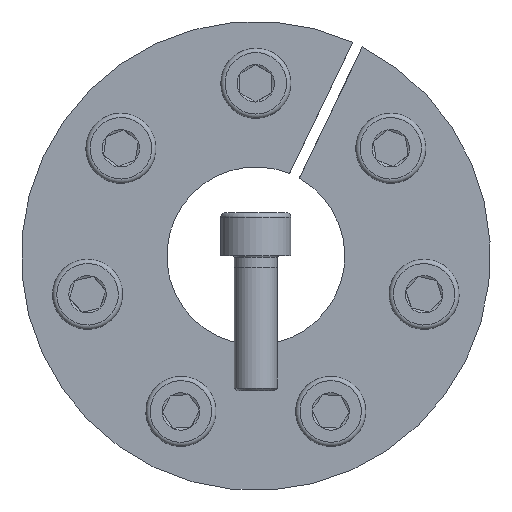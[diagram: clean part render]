
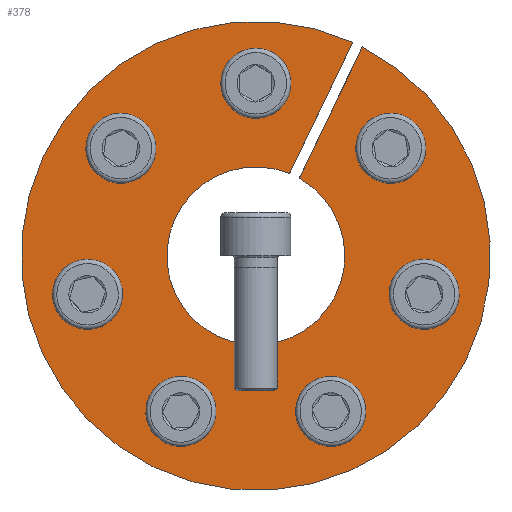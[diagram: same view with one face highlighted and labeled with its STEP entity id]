
A CAD part, front view. The second image highlights one B-rep face of the part: STEP entity #378.
In plain terms, the highlighted planar face has unit normal (0, -1, 0).
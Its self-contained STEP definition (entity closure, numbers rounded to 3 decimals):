
#378 = ADVANCED_FACE( '', ( #598, #599, #600, #601, #602, #603, #604, #605 ), #606, .F. );
#598 = FACE_OUTER_BOUND( '', #752, .T. );
#599 = FACE_BOUND( '', #753, .T. );
#600 = FACE_BOUND( '', #754, .T. );
#601 = FACE_BOUND( '', #755, .T. );
#602 = FACE_BOUND( '', #756, .T. );
#603 = FACE_BOUND( '', #757, .T. );
#604 = FACE_BOUND( '', #758, .T. );
#605 = FACE_BOUND( '', #759, .T. );
#606 = PLANE( '', #760 );
#752 = EDGE_LOOP( '', ( #978, #979, #980, #981 ) );
#753 = EDGE_LOOP( '', ( #982 ) );
#754 = EDGE_LOOP( '', ( #983 ) );
#755 = EDGE_LOOP( '', ( #984 ) );
#756 = EDGE_LOOP( '', ( #985 ) );
#757 = EDGE_LOOP( '', ( #986 ) );
#758 = EDGE_LOOP( '', ( #987 ) );
#759 = EDGE_LOOP( '', ( #988 ) );
#760 = AXIS2_PLACEMENT_3D( '', #989, #990, #991 );
#978 = ORIENTED_EDGE( '', *, *, #1249, .T. );
#979 = ORIENTED_EDGE( '', *, *, #1232, .T. );
#980 = ORIENTED_EDGE( '', *, *, #1263, .T. );
#981 = ORIENTED_EDGE( '', *, *, #1270, .F. );
#982 = ORIENTED_EDGE( '', *, *, #1271, .F. );
#983 = ORIENTED_EDGE( '', *, *, #1272, .F. );
#984 = ORIENTED_EDGE( '', *, *, #1273, .F. );
#985 = ORIENTED_EDGE( '', *, *, #1233, .F. );
#986 = ORIENTED_EDGE( '', *, *, #1274, .F. );
#987 = ORIENTED_EDGE( '', *, *, #1275, .F. );
#988 = ORIENTED_EDGE( '', *, *, #1276, .F. );
#989 = CARTESIAN_POINT( '', ( 0., 0., 43.5 ) );
#990 = DIRECTION( '', ( 0., 1., 0. ) );
#991 = DIRECTION( '', ( 1., 0., 0. ) );
#1232 = EDGE_CURVE( '', #1351, #1355, #1357, .T. );
#1233 = EDGE_CURVE( '', #1358, #1358, #1359, .T. );
#1249 = EDGE_CURVE( '', #1389, #1351, #1390, .T. );
#1263 = EDGE_CURVE( '', #1355, #1411, #1413, .T. );
#1270 = EDGE_CURVE( '', #1389, #1411, #1426, .T. );
#1271 = EDGE_CURVE( '', #1427, #1427, #1428, .T. );
#1272 = EDGE_CURVE( '', #1429, #1429, #1430, .T. );
#1273 = EDGE_CURVE( '', #1431, #1431, #1432, .T. );
#1274 = EDGE_CURVE( '', #1433, #1433, #1434, .T. );
#1275 = EDGE_CURVE( '', #1435, #1435, #1436, .T. );
#1276 = EDGE_CURVE( '', #1437, #1437, #1438, .T. );
#1351 = VERTEX_POINT( '', #1457 );
#1355 = VERTEX_POINT( '', #1462 );
#1357 = CIRCLE( '', #1465, 43.5 );
#1358 = VERTEX_POINT( '', #1466 );
#1359 = CIRCLE( '', #1467, 4.5 );
#1389 = VERTEX_POINT( '', #1505 );
#1390 = LINE( '', #1506, #1507 );
#1411 = VERTEX_POINT( '', #1539 );
#1413 = LINE( '', #1542, #1543 );
#1426 = CIRCLE( '', #1556, 16.5 );
#1427 = VERTEX_POINT( '', #1557 );
#1428 = CIRCLE( '', #1558, 4.5 );
#1429 = VERTEX_POINT( '', #1559 );
#1430 = CIRCLE( '', #1560, 4.5 );
#1431 = VERTEX_POINT( '', #1561 );
#1432 = CIRCLE( '', #1562, 4.5 );
#1433 = VERTEX_POINT( '', #1563 );
#1434 = CIRCLE( '', #1564, 4.5 );
#1435 = VERTEX_POINT( '', #1565 );
#1436 = CIRCLE( '', #1566, 4.5 );
#1437 = VERTEX_POINT( '', #1567 );
#1438 = CIRCLE( '', #1568, 4.5 );
#1457 = CARTESIAN_POINT( '', ( 17.968, 0., 39.616 ) );
#1462 = CARTESIAN_POINT( '', ( 19.77, 0., 38.748 ) );
#1465 = AXIS2_PLACEMENT_3D( '', #1591, #1592, #1593 );
#1466 = CARTESIAN_POINT( '', ( 9.83, 0., -30.783 ) );
#1467 = AXIS2_PLACEMENT_3D( '', #1594, #1595, #1596 );
#1505 = CARTESIAN_POINT( '', ( 6.245, 0., 15.273 ) );
#1506 = CARTESIAN_POINT( '', ( 6.245, 0., 15.273 ) );
#1507 = VECTOR( '', #1632, 1000. );
#1539 = CARTESIAN_POINT( '', ( 8.047, 0., 14.405 ) );
#1542 = CARTESIAN_POINT( '', ( 19.775, 0., 38.758 ) );
#1543 = VECTOR( '', #1648, 1000. );
#1556 = AXIS2_PLACEMENT_3D( '', #1667, #1668, #1669 );
#1557 = CARTESIAN_POINT( '', ( 4.5, 0., 32. ) );
#1558 = AXIS2_PLACEMENT_3D( '', #1670, #1671, #1672 );
#1559 = CARTESIAN_POINT( '', ( 27.824, 0., 16.433 ) );
#1560 = AXIS2_PLACEMENT_3D( '', #1673, #1674, #1675 );
#1561 = CARTESIAN_POINT( '', ( 30.196, 0., -11.508 ) );
#1562 = AXIS2_PLACEMENT_3D( '', #1676, #1677, #1678 );
#1563 = CARTESIAN_POINT( '', ( -17.939, 0., -26.879 ) );
#1564 = AXIS2_PLACEMENT_3D( '', #1679, #1680, #1681 );
#1565 = CARTESIAN_POINT( '', ( -32.199, 0., -2.733 ) );
#1566 = AXIS2_PLACEMENT_3D( '', #1682, #1683, #1684 );
#1567 = CARTESIAN_POINT( '', ( -22.213, 0., 23.47 ) );
#1568 = AXIS2_PLACEMENT_3D( '', #1685, #1686, #1687 );
#1591 = CARTESIAN_POINT( '', ( 0., 0., 0. ) );
#1592 = DIRECTION( '', ( 0., -1., 0. ) );
#1593 = DIRECTION( '', ( 0., 0., -1. ) );
#1594 = CARTESIAN_POINT( '', ( 13.884, 0., -28.831 ) );
#1595 = DIRECTION( '', ( 0., -1., 0. ) );
#1596 = DIRECTION( '', ( -0.901, 0., -0.434 ) );
#1632 = DIRECTION( '', ( 0.434, 0., 0.901 ) );
#1648 = DIRECTION( '', ( -0.434, 0., -0.901 ) );
#1667 = CARTESIAN_POINT( '', ( 0., 0., 0. ) );
#1668 = DIRECTION( '', ( 0., -1., 0. ) );
#1669 = DIRECTION( '', ( 0., 0., -1. ) );
#1670 = CARTESIAN_POINT( '', ( 0., 0., 32. ) );
#1671 = DIRECTION( '', ( 0., -1., 0. ) );
#1672 = DIRECTION( '', ( 1., 0., 0. ) );
#1673 = CARTESIAN_POINT( '', ( 25.019, 0., 19.952 ) );
#1674 = DIRECTION( '', ( 0., -1., 0. ) );
#1675 = DIRECTION( '', ( 0.623, 0., -0.782 ) );
#1676 = CARTESIAN_POINT( '', ( 31.198, 0., -7.121 ) );
#1677 = DIRECTION( '', ( 0., -1., 0. ) );
#1678 = DIRECTION( '', ( -0.223, 0., -0.975 ) );
#1679 = CARTESIAN_POINT( '', ( -13.884, 0., -28.831 ) );
#1680 = DIRECTION( '', ( 0., -1., 0. ) );
#1681 = DIRECTION( '', ( -0.901, 0., 0.434 ) );
#1682 = CARTESIAN_POINT( '', ( -31.198, 0., -7.121 ) );
#1683 = DIRECTION( '', ( 0., -1., 0. ) );
#1684 = DIRECTION( '', ( -0.223, 0., 0.975 ) );
#1685 = CARTESIAN_POINT( '', ( -25.019, 0., 19.952 ) );
#1686 = DIRECTION( '', ( 0., -1., 0. ) );
#1687 = DIRECTION( '', ( 0.623, 0., 0.782 ) );
